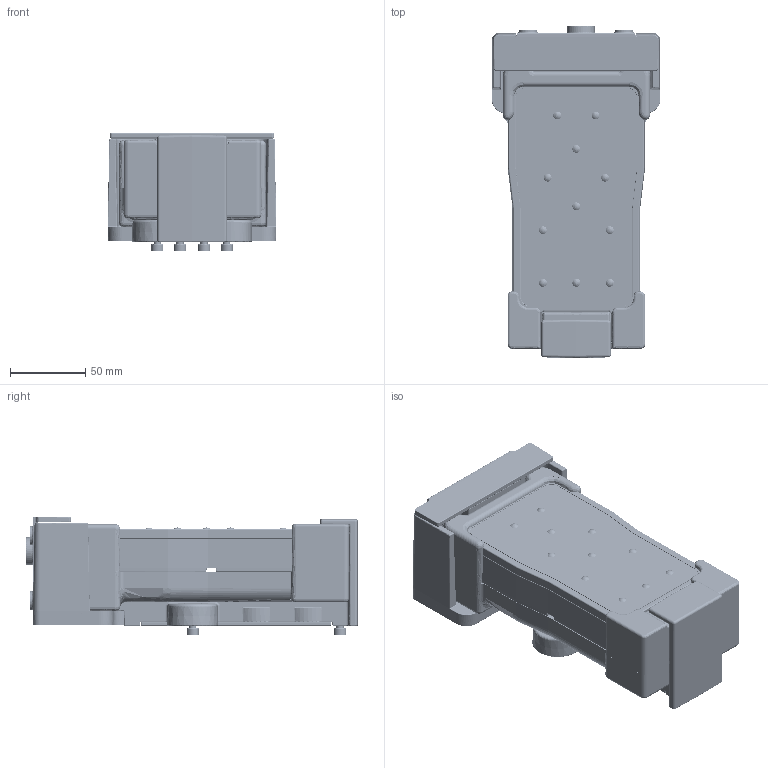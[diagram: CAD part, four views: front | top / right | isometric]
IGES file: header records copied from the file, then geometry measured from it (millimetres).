
Start section: SolidWorks IGES file using analytic representation for surfaces
Global section: file name: C:\plot\models\7015.igs; native system: SolidWorks 2013; preprocessor: SolidWorks 2013; author: tmott; date: 131007.134049; units: inch
Bounding box: 111.92 x 220.34 x 78.95 mm (x, y, z)
Surface area: 413777.9 mm2 (no closed solid volume)
Topology: 0 solids, 0 shells, 9532 faces, 67105 edges, 66549 vertices
Faces by surface type: bspline 5759, revolution 3773
